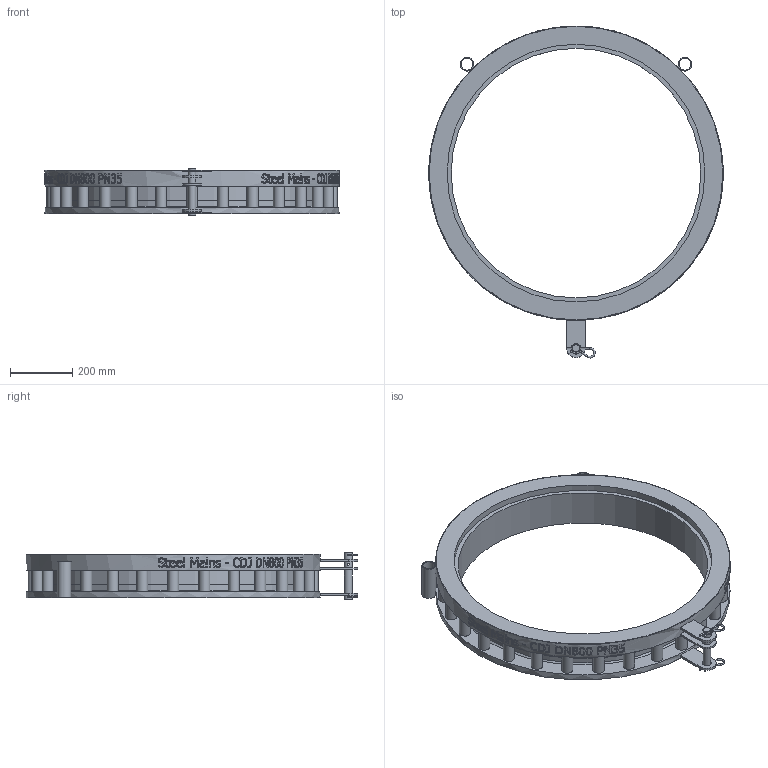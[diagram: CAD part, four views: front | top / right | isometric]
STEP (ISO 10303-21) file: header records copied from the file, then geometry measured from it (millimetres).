
FILE_DESCRIPTION(/* description */ (''),/* implementation_level */ '2;1');
FILE_NAME(/* name */ 'C:\Vault\Designs\Somerton\196\196-42 Models\Marketing Files\SteelMains - CDJ DN800 PN35 - (196-42T rev C).stp',/* time_stamp */ '2025-09-29T13:07:08+10:00',/* author */ ('Sam.Cavallaro'),/* organization */ (''),/* preprocessor_version */ 'ST-DEVELOPER v18.1',/* originating_system */ 'Autodesk Inventor 2021',/* authorisation */ '');
FILE_SCHEMA (('AUTOMOTIVE_DESIGN { 1 0 10303 214 3 1 1 }'));
Length unit declared in the file: millimetre
Products named in the file (1): SPS_ENG-084866
Bounding box: 948 x 1069.2 x 151 mm (x, y, z)
Volume: 17629751.3 mm3; surface area: 1760530.7 mm2
Topology: 6 solids, 6 shells, 863 faces, 2346 edges, 1565 vertices
Faces by surface type: bspline 426, plane 297, cylinder 127, torus 8, cone 5
Full cylindrical faces by diameter (mm): 4.8 x10, 6 x3, 25 x1, 30 x3, 36 x28, 38.1 x2, 44.5 x2, 804 x1, 824 x1, 828 x1, 830 x1, 948 x1
Entity records: 38505 total; most frequent: CARTESIAN_POINT 18863, ORIENTED_EDGE 4698, DIRECTION 2767, EDGE_CURVE 2349, VERTEX_POINT 1568, LINE 1067, VECTOR 1067, EDGE_LOOP 1007
